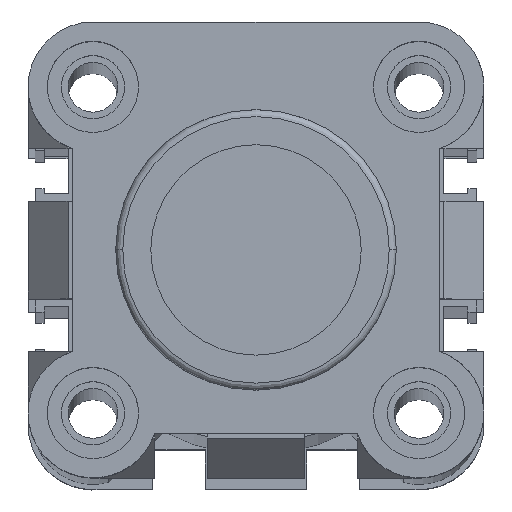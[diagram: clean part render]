
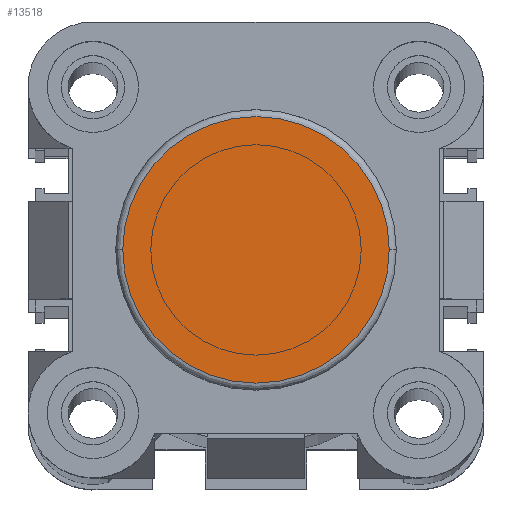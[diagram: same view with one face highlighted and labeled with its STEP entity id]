
A CAD part, top view. The second image highlights one B-rep face of the part: STEP entity #13518.
In plain terms, the highlighted planar face has unit normal (0, 0, 1).
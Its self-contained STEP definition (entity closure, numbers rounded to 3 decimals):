
#420 = VERTEX_POINT ( 'NONE', #1527 ) ;
#502 = AXIS2_PLACEMENT_3D ( 'NONE', #13011, #20403, #3445 ) ;
#1227 = CARTESIAN_POINT ( 'NONE',  ( 32.5, 32.5, 34. ) ) ;
#1527 = CARTESIAN_POINT ( 'NONE',  ( 51.5, 32.5, 34. ) ) ;
#2153 = EDGE_LOOP ( 'NONE', ( #8243, #12888 ) ) ;
#3445 = DIRECTION ( 'NONE',  ( 1., 0., 0. ) ) ;
#3872 = VERTEX_POINT ( 'NONE', #13681 ) ;
#4050 = DIRECTION ( 'NONE',  ( 0., 0., 1. ) ) ;
#4765 = AXIS2_PLACEMENT_3D ( 'NONE', #1227, #14532, #10963 ) ;
#8243 = ORIENTED_EDGE ( 'NONE', *, *, #17970, .T. ) ;
#9146 = PLANE ( 'NONE',  #4765 ) ;
#9981 = CIRCLE ( 'NONE', #502, 19. ) ;
#10206 = CIRCLE ( 'NONE', #24168, 19. ) ;
#10963 = DIRECTION ( 'NONE',  ( 1., 0., 0. ) ) ;
#12888 = ORIENTED_EDGE ( 'NONE', *, *, #17049, .T. ) ;
#13011 = CARTESIAN_POINT ( 'NONE',  ( 32.5, 32.5, 34. ) ) ;
#13518 = ADVANCED_FACE ( 'NONE', ( #19242 ), #9146, .T. ) ;
#13681 = CARTESIAN_POINT ( 'NONE',  ( 13.5, 32.5, 34. ) ) ;
#14532 = DIRECTION ( 'NONE',  ( 0., 0., 1. ) ) ;
#17049 = EDGE_CURVE ( 'NONE', #3872, #420, #9981, .T. ) ;
#17970 = EDGE_CURVE ( 'NONE', #420, #3872, #10206, .T. ) ;
#19176 = DIRECTION ( 'NONE',  ( 1., 0., 0. ) ) ;
#19242 = FACE_OUTER_BOUND ( 'NONE', #2153, .T. ) ;
#20403 = DIRECTION ( 'NONE',  ( 0., 0., 1. ) ) ;
#21169 = CARTESIAN_POINT ( 'NONE',  ( 32.5, 32.5, 34. ) ) ;
#24168 = AXIS2_PLACEMENT_3D ( 'NONE', #21169, #4050, #19176 ) ;
